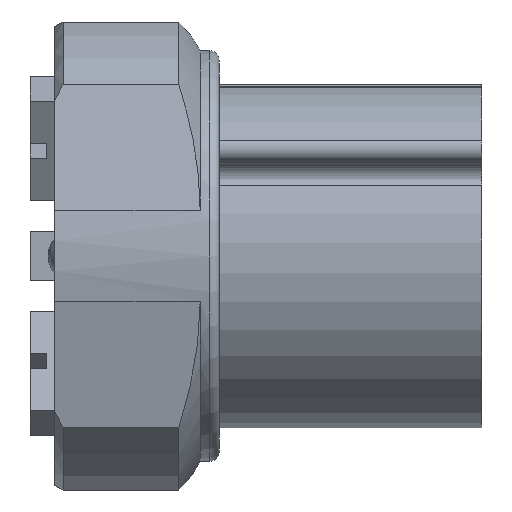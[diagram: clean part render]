
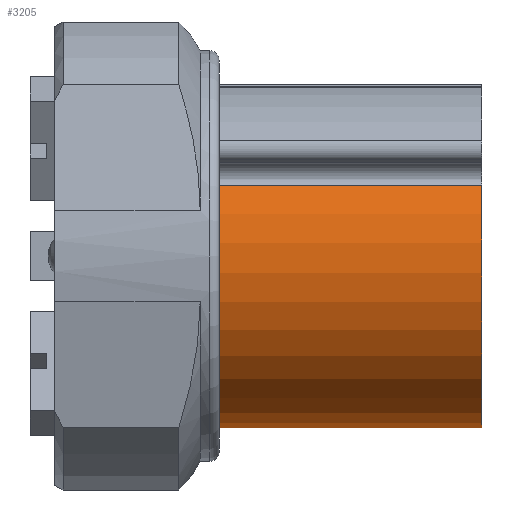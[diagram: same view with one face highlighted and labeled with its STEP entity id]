
A CAD part, front view. The second image highlights one B-rep face of the part: STEP entity #3205.
In plain terms, the highlighted cylindrical face has radius 21 mm (diameter 42 mm), a partial arc.
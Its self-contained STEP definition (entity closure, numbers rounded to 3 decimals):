
#25=CYLINDRICAL_SURFACE('',#3510,21.);
#89=B_SPLINE_CURVE_WITH_KNOTS('',3,(#5004,#5005,#5006,#5007,#5008,#5009,
#5010,#5011,#5012,#5013,#5014,#5015,#5016),.UNSPECIFIED.,.T.,.F.,(1,1,1,
1,1,1,1,1,1,1,1,1,1,1,1,1,1),(-0.006,-0.004,
-0.002,0.,0.004,0.008,0.012,
0.016,0.02,0.024,0.025,
0.027,0.029,0.031,0.035,
0.039,0.043),.UNSPECIFIED.);
#90=B_SPLINE_CURVE_WITH_KNOTS('',3,(#5018,#5019,#5020,#5021,#5022,#5023,
#5024,#5025,#5026,#5027,#5028,#5029,#5030),.UNSPECIFIED.,.T.,.F.,(1,1,1,
1,1,1,1,1,1,1,1,1,1,1,1,1,1),(-0.006,-0.004,
-0.002,0.,0.004,0.008,0.012,
0.016,0.02,0.024,0.025,
0.027,0.029,0.031,0.035,
0.039,0.043),.UNSPECIFIED.);
#170=LINE('',#4999,#448);
#171=LINE('',#5003,#449);
#448=VECTOR('',#3957,1000.);
#449=VECTOR('',#3960,1000.);
#779=ORIENTED_EDGE('',*,*,#1708,.F.);
#780=ORIENTED_EDGE('',*,*,#1709,.T.);
#781=ORIENTED_EDGE('',*,*,#1710,.T.);
#782=ORIENTED_EDGE('',*,*,#1699,.F.);
#783=ORIENTED_EDGE('',*,*,#1711,.T.);
#784=ORIENTED_EDGE('',*,*,#1712,.T.);
#1699=EDGE_CURVE('',#2161,#2162,#2458,.T.);
#1708=EDGE_CURVE('',#2169,#2161,#170,.T.);
#1709=EDGE_CURVE('',#2169,#2170,#2464,.T.);
#1710=EDGE_CURVE('',#2170,#2162,#171,.T.);
#1711=EDGE_CURVE('',#2171,#2171,#89,.T.);
#1712=EDGE_CURVE('',#2172,#2172,#90,.T.);
#2161=VERTEX_POINT('',#4981);
#2162=VERTEX_POINT('',#4983);
#2169=VERTEX_POINT('',#5000);
#2170=VERTEX_POINT('',#5002);
#2171=VERTEX_POINT('',#5017);
#2172=VERTEX_POINT('',#5031);
#2458=CIRCLE('',#3504,21.);
#2464=CIRCLE('',#3511,21.);
#2602=EDGE_LOOP('',(#779,#780,#781,#782));
#2603=EDGE_LOOP('',(#783));
#2604=EDGE_LOOP('',(#784));
#2853=FACE_BOUND('',#2602,.T.);
#2854=FACE_BOUND('',#2603,.T.);
#2855=FACE_BOUND('',#2604,.T.);
#3205=ADVANCED_FACE('',(#2853,#2854,#2855),#25,.T.);
#3504=AXIS2_PLACEMENT_3D('',#4982,#3940,#3941);
#3510=AXIS2_PLACEMENT_3D('',#4998,#3955,#3956);
#3511=AXIS2_PLACEMENT_3D('',#5001,#3958,#3959);
#3940=DIRECTION('',(1.,0.,0.));
#3941=DIRECTION('',(0.,0.,-1.));
#3955=DIRECTION('',(1.,0.,0.));
#3956=DIRECTION('',(0.,0.,-1.));
#3957=DIRECTION('',(1.,0.,0.));
#3958=DIRECTION('',(1.,0.,0.));
#3959=DIRECTION('',(0.,0.,-1.));
#3960=DIRECTION('',(1.,0.,0.));
#4981=CARTESIAN_POINT('',(0.,-19.156,8.604));
#4982=CARTESIAN_POINT('',(0.,0.,0.));
#4983=CARTESIAN_POINT('',(0.,2.129,20.892));
#4998=CARTESIAN_POINT('',(-32.,0.,0.));
#4999=CARTESIAN_POINT('',(-32.,-19.156,8.604));
#5000=CARTESIAN_POINT('',(-32.,-19.156,8.604));
#5001=CARTESIAN_POINT('',(-32.,0.,0.));
#5002=CARTESIAN_POINT('',(-32.,2.129,20.892));
#5003=CARTESIAN_POINT('',(-32.,2.129,20.892));
#5004=CARTESIAN_POINT('',(-6.023,20.849,-2.551));
#5005=CARTESIAN_POINT('',(-8.663,20.9,-2.001));
#5006=CARTESIAN_POINT('',(-11.915,20.792,-3.4));
#5007=CARTESIAN_POINT('',(-13.542,19.875,-7.229));
#5008=CARTESIAN_POINT('',(-11.918,18.114,-10.764));
#5009=CARTESIAN_POINT('',(-8.003,17.127,-12.13));
#5010=CARTESIAN_POINT('',(-4.085,18.114,-10.764));
#5011=CARTESIAN_POINT('',(-2.734,19.572,-7.829));
#5012=CARTESIAN_POINT('',(-3.263,20.345,-5.311));
#5013=CARTESIAN_POINT('',(-4.372,20.692,-3.674));
#5014=CARTESIAN_POINT('',(-6.023,20.849,-2.551));
#5015=CARTESIAN_POINT('',(-8.663,20.9,-2.001));
#5016=CARTESIAN_POINT('',(-11.915,20.792,-3.4));
#5017=CARTESIAN_POINT('',(-8.,20.876,-2.277));
#5018=CARTESIAN_POINT('',(-23.023,17.611,11.448));
#5019=CARTESIAN_POINT('',(-25.663,17.297,11.902));
#5020=CARTESIAN_POINT('',(-28.915,18.113,10.761));
#5021=CARTESIAN_POINT('',(-30.542,19.872,7.238));
#5022=CARTESIAN_POINT('',(-28.918,20.794,3.398));
#5023=CARTESIAN_POINT('',(-25.003,20.917,1.717));
#5024=CARTESIAN_POINT('',(-21.085,20.795,3.397));
#5025=CARTESIAN_POINT('',(-19.734,20.025,6.584));
#5026=CARTESIAN_POINT('',(-20.263,18.999,9.009));
#5027=CARTESIAN_POINT('',(-21.372,18.213,10.486));
#5028=CARTESIAN_POINT('',(-23.023,17.611,11.448));
#5029=CARTESIAN_POINT('',(-25.663,17.297,11.902));
#5030=CARTESIAN_POINT('',(-28.915,18.113,10.761));
#5031=CARTESIAN_POINT('',(-25.,17.456,11.674));
